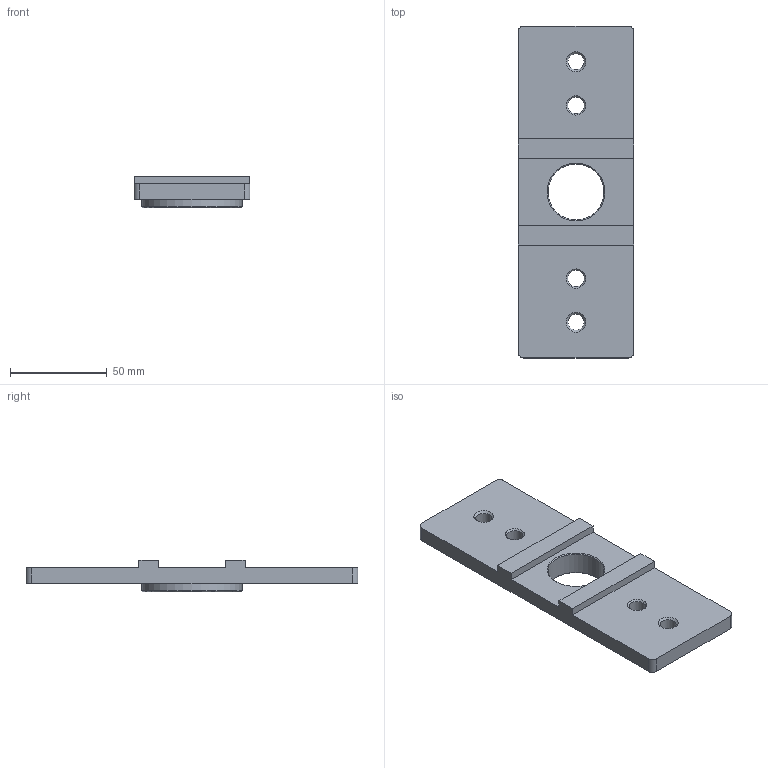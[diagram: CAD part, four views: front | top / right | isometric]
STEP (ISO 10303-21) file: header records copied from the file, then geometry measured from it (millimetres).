
FILE_DESCRIPTION(/* description */ (''),/* implementation_level */ '2;1');
FILE_NAME(/* name */ 'TRAYLOADER.37.stp',/* time_stamp */ '2025-05-12T16:00:08+02:00',/* author */ (''),/* organization */ (''),/* preprocessor_version */ 'ST-DEVELOPER v19.4',/* originating_system */ 'SIEMENS PLM Software NX2306.5001',/* authorisation */ '');
FILE_SCHEMA (('AP203_CONFIGURATION_CONTROLLED_3D_DESIGN_OF_MECHANICAL_PARTS_AND_ASSEMBLIES_MIM_LF { 1 0 10303 403 2 1 2}'));
Length unit declared in the file: millimetre
Products named in the file (1): TRAYLOADER.37_objects
Bounding box: 60 x 172 x 16.5 mm (x, y, z)
Volume: 86669.3 mm3; surface area: 26167.7 mm2
Topology: 1 solids, 1 shells, 36 faces, 94 edges, 61 vertices
Faces by surface type: plane 15, cone 11, cylinder 10
Full cylindrical faces by diameter (mm): 8.3 x2, 8.5 x2, 29 x1, 52 x1
Entity records: 1076 total; most frequent: DIRECTION 176, CARTESIAN_POINT 163, ORIENTED_EDGE 142, EDGE_CURVE 71, AXIS2_PLACEMENT_3D 68, EDGE_LOOP 64, VERTEX_POINT 55, FACE_BOUND 50
